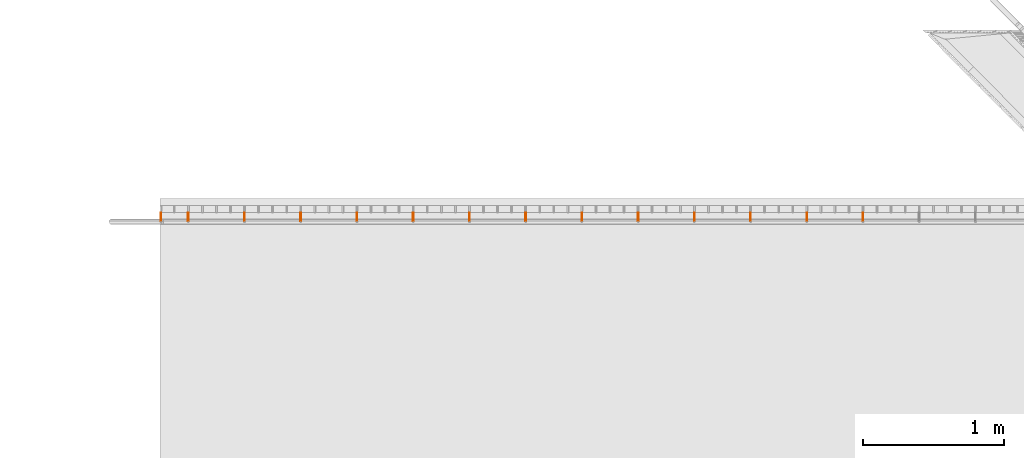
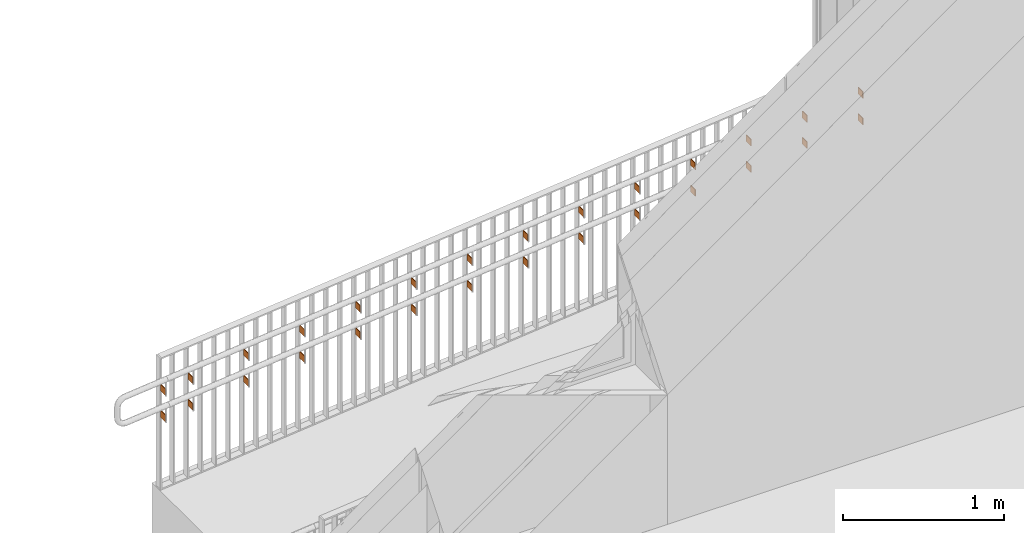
# One storey, part 379 of 418: 28 proxies.
"""IFC2X3 building model written with IfcOpenShell, lengths in millimetres."""

from ifc_helpers import new_model, entity, si_unit, converted_unit, derived_unit, money_unit, direction, frame, origin_with_axes, place, context, subcontext, project, spatial, polyline, outline, extrude, material, type_object, element, save


model = new_model("IFC2X3")

# Units and contexts
model_context = context("Model", 3, precision=0.01, world=origin_with_axes(), true_north=direction((0.0, 1.0)))
body_context = subcontext(model_context, "Body", "Model", "MODEL_VIEW")
ifc_project = project(units=[si_unit("LENGTHUNIT", "METRE", prefix="MILLI"), si_unit("AREAUNIT", "SQUARE_METRE"), si_unit("VOLUMEUNIT", "CUBIC_METRE"), converted_unit("PLANEANGLEUNIT", "DEGREE", entity("IfcPlaneAngleMeasure", 0.0174532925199), si_unit("PLANEANGLEUNIT", "RADIAN"), dimensions=[0, 0, 0, 0, 0, 0, 0]), si_unit("SOLIDANGLEUNIT", "STERADIAN"), money_unit("EUR"), converted_unit("TIMEUNIT", "Year", entity("IfcTimeMeasure", 31556926.0), si_unit("TIMEUNIT", "SECOND"), dimensions=[0, 0, 1, 0, 0, 0, 0]), si_unit("MASSUNIT", "GRAM", prefix="KILO"), si_unit("THERMODYNAMICTEMPERATUREUNIT", "DEGREE_CELSIUS"), si_unit("LUMINOUSINTENSITYUNIT", "LUMEN"), si_unit("ENERGYUNIT", "JOULE", prefix="MEGA"), derived_unit("THERMALCONDUCTANCEUNIT", [(si_unit("POWERUNIT", "WATT"), 1), (si_unit("LENGTHUNIT", "METRE"), -1), (si_unit("THERMODYNAMICTEMPERATUREUNIT", "KELVIN"), -1)]), derived_unit("SPECIFICHEATCAPACITYUNIT", [(si_unit("ENERGYUNIT", "JOULE"), 1), (si_unit("MASSUNIT", "GRAM", prefix="KILO"), -1), (si_unit("THERMODYNAMICTEMPERATUREUNIT", "KELVIN"), -1)]), derived_unit("MASSDENSITYUNIT", [(si_unit("MASSUNIT", "GRAM", prefix="KILO"), 1), (si_unit("VOLUMEUNIT", "CUBIC_METRE"), -1)])], contexts=[model_context])

# Site, building, storey
site_placement = place(None, origin_with_axes())
site = spatial("IfcSite", under=ifc_project, at=site_placement, Name="Paldiski mnt 245/1, Tallinn, Harjumaa", CompositionType="COMPLEX")
building_placement = place(site_placement, origin_with_axes())
building = spatial("IfcBuilding", under=site, at=building_placement, Name="RKAS Hoone üldnimetus (kasutust iseloomustav) -> IFC Project Manager -> SOLIBRI", CompositionType="ELEMENT")
storey_placement = place(building_placement, origin_with_axes())
storey = spatial("IfcBuildingStorey", under=building, at=storey_placement, Name="Esimene korrus", CompositionType="ELEMENT", Elevation=0.0)

# Proxies
ifc_material = material(Name="RAL 7011 Tumehall")
building_element_proxy_type = type_object("IfcBuildingElementProxyType", Name="RAL 7011 Tumehall 50", PredefinedType="NOTDEFINED")
proxy_1_placement = place(storey_placement, frame((-59720.7116431, 38489.7311931, -46.0667069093), z_axis=(0.0, 0.0, 1.0), x_axis=(1.0, 0.0, 0.0)))
element("IfcBuildingElementProxy", 1, at=proxy_1_placement, inside=storey, type_object=building_element_proxy_type, material=ifc_material, Name="Piire", context=body_context, shape_type="SweptSolid", body=[
    extrude(outline(polyline([(0.0, 0.0), (-5.00000000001, 0.0), (-5.00000000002, -60.0), (0.0, -60.0), (0.0, 0.0)])), frame((0.0, 0.0, -50.0), z_axis=(0.0, 0.0, 1.0), x_axis=(1.0, 0.0, 0.0)), (0.0, 0.0, 1.0), 50.0),
])
for number, where, z_axis, x_axis in (
    (2, (-57720.6104354, 38489.7311931, 353.943483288), (0.0, 0.0, 1.0), (1.0, 0.0, 0.0)),
    (3, (-56520.6611385, 38489.7311931, 473.938413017), (0.0, 0.0, 1.0), (1.0, 0.0, 0.0)),
):
    element("IfcBuildingElementProxy", number, at=place(storey_placement, frame(where, z_axis=z_axis, x_axis=x_axis)), inside=storey, type_object=building_element_proxy_type, material=ifc_material, Name="Piire", context=body_context, shape_type="SweptSolid", body=[
        extrude(outline(polyline([(0.0, 0.0), (-5.0, 0.0), (-5.0, -60.0), (0.0, -60.0), (0.0, 0.0)])), frame((0.0, 0.0, -50.0), z_axis=(0.0, 0.0, 1.0), x_axis=(1.0, 0.0, 0.0)), (0.0, 0.0, 1.0), 50.0),
    ])
proxy_2_placement = place(storey_placement, frame((-59320.66094, 38489.7311931, -6.06163658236), z_axis=(0.0, 0.0, 1.0), x_axis=(1.0, 0.0, 0.0)))
element("IfcBuildingElementProxy", 4, at=proxy_2_placement, inside=storey, type_object=building_element_proxy_type, material=ifc_material, Name="Piire", context=body_context, shape_type="SweptSolid", body=[
    extrude(outline(polyline([(0.0, 0.0), (-5.00000000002, 0.0), (-5.00000000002, -60.0), (0.0, -60.0), (0.0, 0.0)])), frame((0.0, 0.0, -50.0), z_axis=(0.0, 0.0, 1.0), x_axis=(1.0, 0.0, 0.0)), (0.0, 0.0, 1.0), 50.0),
])
proxy_3_placement = place(storey_placement, frame((-58920.6611385, 38489.7311931, 233.938412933), z_axis=(0.0, 0.0, 1.0), x_axis=(1.0, 0.0, 0.0)))
element("IfcBuildingElementProxy", 5, at=proxy_3_placement, inside=storey, type_object=building_element_proxy_type, material=ifc_material, Name="Piire", context=body_context, shape_type="SweptSolid", body=[
    extrude(outline(polyline([(0.0, 0.0), (-5.00000000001, 0.0), (-5.00000000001, -60.0), (0.0, -60.0), (0.0, 0.0)])), frame((0.0, 0.0, -50.0), z_axis=(0.0, 0.0, 1.0), x_axis=(1.0, 0.0, 0.0)), (0.0, 0.0, 1.0), 50.0),
])
proxy_4_placement = place(storey_placement, frame((-58920.66094, 38489.7311931, 33.9383634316), z_axis=(0.0, 0.0, 1.0), x_axis=(1.0, 0.0, 0.0)))
element("IfcBuildingElementProxy", 6, at=proxy_4_placement, inside=storey, type_object=building_element_proxy_type, material=ifc_material, Name="Piire", context=body_context, shape_type="SweptSolid", body=[
    extrude(outline(polyline([(0.0, 0.0), (-5.00000000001, 0.0), (-5.00000000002, -60.0), (0.0, -60.0), (0.0, 0.0)])), frame((0.0, 0.0, -50.0), z_axis=(0.0, 0.0, 1.0), x_axis=(1.0, 0.0, 0.0)), (0.0, 0.0, 1.0), 50.0),
])
for number, where, z_axis, x_axis in (
    (7, (-59320.6611385, 38489.7311931, 193.938412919), (0.0, 0.0, 1.0), (1.0, 0.0, 0.0)),
    (8, (-58120.6611385, 38489.7311931, 313.938412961), (0.0, 0.0, 1.0), (1.0, 0.0, 0.0)),
):
    element("IfcBuildingElementProxy", number, at=place(storey_placement, frame(where, z_axis=z_axis, x_axis=x_axis)), inside=storey, type_object=building_element_proxy_type, material=ifc_material, Name="Piire", context=body_context, shape_type="SweptSolid", body=[
        extrude(outline(polyline([(0.0, 0.0), (-5.0, 0.0), (-5.0, -60.0), (0.0, -60.0), (0.0, 0.0)])), frame((0.0, 0.0, -50.0), z_axis=(0.0, 0.0, 1.0), x_axis=(1.0, 0.0, 0.0)), (0.0, 0.0, 1.0), 50.0),
    ])
proxy_5_placement = place(storey_placement, frame((-57720.6102369, 38489.7311931, 153.943433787), z_axis=(0.0, 0.0, 1.0), x_axis=(1.0, 0.0, 0.0)))
element("IfcBuildingElementProxy", 9, at=proxy_5_placement, inside=storey, type_object=building_element_proxy_type, material=ifc_material, Name="Piire", context=body_context, shape_type="SweptSolid", body=[
    extrude(outline(polyline([(0.0, 0.0), (-5.0, 0.0), (-5.00000000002, -60.0), (0.0, -60.0), (0.0, 0.0)])), frame((0.0, 0.0, -50.0), z_axis=(0.0, 0.0, 1.0), x_axis=(1.0, 0.0, 0.0)), (0.0, 0.0, 1.0), 50.0),
])
proxy_6_placement = place(storey_placement, frame((-58120.66094, 38489.7311931, 113.93836346), z_axis=(0.0, 0.0, 1.0), x_axis=(1.0, 0.0, 0.0)))
element("IfcBuildingElementProxy", 10, at=proxy_6_placement, inside=storey, type_object=building_element_proxy_type, material=ifc_material, Name="Piire", context=body_context, shape_type="SweptSolid", body=[
    extrude(outline(polyline([(0.0, 0.0), (-5.00000000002, 0.0), (-5.00000000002, -60.0), (0.0, -60.0), (0.0, 0.0)])), frame((0.0, 0.0, -50.0), z_axis=(0.0, 0.0, 1.0), x_axis=(1.0, 0.0, 0.0)), (0.0, 0.0, 1.0), 50.0),
])
proxy_7_placement = place(storey_placement, frame((-56520.66094, 38489.7311931, 273.938363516), z_axis=(0.0, 0.0, 1.0), x_axis=(1.0, 0.0, 0.0)))
element("IfcBuildingElementProxy", 11, at=proxy_7_placement, inside=storey, type_object=building_element_proxy_type, material=ifc_material, Name="Piire", context=body_context, shape_type="SweptSolid", body=[
    extrude(outline(polyline([(0.0, 0.0), (-5.00000000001, 0.0), (-5.00000000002, -60.0), (0.0, -60.0), (0.0, 0.0)])), frame((0.0, 0.0, -50.0), z_axis=(0.0, 0.0, 1.0), x_axis=(1.0, 0.0, 0.0)), (0.0, 0.0, 1.0), 50.0),
])
proxy_8_placement = place(storey_placement, frame((-56920.5595337, 38489.7311931, 233.948504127), z_axis=(0.0, 0.0, 1.0), x_axis=(1.0, 0.0, 0.0)))
element("IfcBuildingElementProxy", 12, at=proxy_8_placement, inside=storey, type_object=building_element_proxy_type, material=ifc_material, Name="Piire", context=body_context, shape_type="SweptSolid", body=[
    extrude(outline(polyline([(0.0, 0.0), (-5.00000000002, 0.0), (-5.00000000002, -60.0), (0.0, -60.0), (0.0, 0.0)])), frame((0.0, 0.0, -50.0), z_axis=(0.0, 0.0, 1.0), x_axis=(1.0, 0.0, 0.0)), (0.0, 0.0, 1.0), 50.0),
])
proxy_9_placement = place(storey_placement, frame((-56920.5597323, 38489.7311931, 433.948553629), z_axis=(0.0, 0.0, 1.0), x_axis=(1.0, 0.0, 0.0)))
element("IfcBuildingElementProxy", 13, at=proxy_9_placement, inside=storey, type_object=building_element_proxy_type, material=ifc_material, Name="Piire", context=body_context, shape_type="SweptSolid", body=[
    extrude(outline(polyline([(0.0, 0.0), (-5.0, 0.0), (-5.00000000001, -60.0), (0.0, -60.0), (0.0, 0.0)])), frame((0.0, 0.0, -50.0), z_axis=(0.0, 0.0, 1.0), x_axis=(1.0, 0.0, 0.0)), (0.0, 0.0, 1.0), 50.0),
])
proxy_10_placement = place(storey_placement, frame((-58520.6104354, 38489.7311931, 273.94348326), z_axis=(0.0, 0.0, 1.0), x_axis=(1.0, 0.0, 0.0)))
element("IfcBuildingElementProxy", 14, at=proxy_10_placement, inside=storey, type_object=building_element_proxy_type, material=ifc_material, Name="Piire", context=body_context, shape_type="SweptSolid", body=[
    extrude(outline(polyline([(0.0, 0.0), (-4.99999999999, 0.0), (-5.00000000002, -60.0), (0.0, -60.0), (0.0, 0.0)])), frame((0.0, 0.0, -50.0), z_axis=(0.0, 0.0, 1.0), x_axis=(1.0, 0.0, 0.0)), (0.0, 0.0, 1.0), 50.0),
])
proxy_11_placement = place(storey_placement, frame((-57320.6104354, 38489.7311931, 393.943483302), z_axis=(0.0, 0.0, 1.0), x_axis=(1.0, 0.0, 0.0)))
element("IfcBuildingElementProxy", 15, at=proxy_11_placement, inside=storey, type_object=building_element_proxy_type, material=ifc_material, Name="Piire", context=body_context, shape_type="SweptSolid", body=[
    extrude(outline(polyline([(0.0, 0.0), (-5.0, 0.0), (-5.00000000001, -60.0), (0.0, -60.0), (0.0, 0.0)])), frame((0.0, 0.0, -50.0), z_axis=(0.0, 0.0, 1.0), x_axis=(1.0, 0.0, 0.0)), (0.0, 0.0, 1.0), 50.0),
])
proxy_12_placement = place(storey_placement, frame((-58520.6102369, 38489.7311931, 73.9434337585), z_axis=(0.0, 0.0, 1.0), x_axis=(1.0, 0.0, 0.0)))
element("IfcBuildingElementProxy", 16, at=proxy_12_placement, inside=storey, type_object=building_element_proxy_type, material=ifc_material, Name="Piire", context=body_context, shape_type="SweptSolid", body=[
    extrude(outline(polyline([(0.0, 0.0), (-5.00000000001, 0.0), (-5.00000000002, -60.0), (0.0, -60.0), (0.0, 0.0)])), frame((0.0, 0.0, -50.0), z_axis=(0.0, 0.0, 1.0), x_axis=(1.0, 0.0, 0.0)), (0.0, 0.0, 1.0), 50.0),
])
proxy_13_placement = place(storey_placement, frame((-57320.6102369, 38489.7311931, 193.9434338), z_axis=(0.0, 0.0, 1.0), x_axis=(1.0, 0.0, 0.0)))
element("IfcBuildingElementProxy", 17, at=proxy_13_placement, inside=storey, type_object=building_element_proxy_type, material=ifc_material, Name="Piire", context=body_context, shape_type="SweptSolid", body=[
    extrude(outline(polyline([(0.0, 0.0), (-5.00000000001, 0.0), (-5.00000000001, -60.0), (0.0, -60.0), (0.0, 0.0)])), frame((0.0, 0.0, -50.0), z_axis=(0.0, 0.0, 1.0), x_axis=(1.0, 0.0, 0.0)), (0.0, 0.0, 1.0), 50.0),
])
for number, where, z_axis, x_axis in (
    (18, (-59915.5597249, 38489.7311931, 134.448554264), (0.0, 0.0, 1.0), (1.0, 0.0, 0.0)),
    (19, (-59720.7118416, 38489.7311931, 153.933342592), (0.0, 0.0, 1.0), (1.0, 0.0, 0.0)),
):
    element("IfcBuildingElementProxy", number, at=place(storey_placement, frame(where, z_axis=z_axis, x_axis=x_axis)), inside=storey, type_object=building_element_proxy_type, material=ifc_material, Name="Piire", context=body_context, shape_type="SweptSolid", body=[
        extrude(outline(polyline([(0.0, 0.0), (-5.0, 0.0), (-5.00000000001, -60.0), (0.0, -60.0), (0.0, 0.0)])), frame((0.0, 0.0, -50.0), z_axis=(0.0, 0.0, 1.0), x_axis=(1.0, 0.0, 0.0)), (0.0, 0.0, 1.0), 50.0),
    ])
proxy_14_placement = place(storey_placement, frame((-59915.5595263, 38489.7311931, -65.5514952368), z_axis=(0.0, 0.0, 1.0), x_axis=(1.0, 0.0, 0.0)))
element("IfcBuildingElementProxy", 20, at=proxy_14_placement, inside=storey, type_object=building_element_proxy_type, material=ifc_material, Name="Piire", context=body_context, shape_type="SweptSolid", body=[
    extrude(outline(polyline([(0.0, 0.0), (-5.00000000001, 0.0), (-5.00000000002, -60.0), (0.0, -60.0), (0.0, 0.0)])), frame((0.0, 0.0, -50.0), z_axis=(0.0, 0.0, 1.0), x_axis=(1.0, 0.0, 0.0)), (0.0, 0.0, 1.0), 50.0),
])
proxy_15_placement = place(storey_placement, frame((-54920.6104354, 38489.7311931, 633.943483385), z_axis=(0.0, 0.0, 1.0), x_axis=(1.0, 0.0, 0.0)))
element("IfcBuildingElementProxy", 21, at=proxy_15_placement, inside=storey, type_object=building_element_proxy_type, material=ifc_material, Name="Piire", context=body_context, shape_type="SweptSolid", body=[
    extrude(outline(polyline([(0.0, 0.0), (-5.0, 0.0), (-5.00000000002, -60.0), (0.0, -60.0), (0.0, 0.0)])), frame((0.0, 0.0, -50.0), z_axis=(0.0, 0.0, 1.0), x_axis=(1.0, 0.0, 0.0)), (0.0, 0.0, 1.0), 50.0),
])
proxy_16_placement = place(storey_placement, frame((-54920.6102369, 38489.7311931, 433.943433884), z_axis=(0.0, 0.0, 1.0), x_axis=(1.0, 0.0, 0.0)))
element("IfcBuildingElementProxy", 22, at=proxy_16_placement, inside=storey, type_object=building_element_proxy_type, material=ifc_material, Name="Piire", context=body_context, shape_type="SweptSolid", body=[
    extrude(outline(polyline([(0.0, 0.0), (-5.00000000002, 0.0), (-5.00000000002, -60.0), (0.0, -60.0), (0.0, 0.0)])), frame((0.0, 0.0, -50.0), z_axis=(0.0, 0.0, 1.0), x_axis=(1.0, 0.0, 0.0)), (0.0, 0.0, 1.0), 50.0),
])
proxy_17_placement = place(storey_placement, frame((-55320.5597323, 38489.7311931, 593.948553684), z_axis=(0.0, 0.0, 1.0), x_axis=(1.0, 0.0, 0.0)))
element("IfcBuildingElementProxy", 23, at=proxy_17_placement, inside=storey, type_object=building_element_proxy_type, material=ifc_material, Name="Piire", context=body_context, shape_type="SweptSolid", body=[
    extrude(outline(polyline([(0.0, 0.0), (-4.99999999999, 0.0), (-5.0, -60.0), (0.0, -60.0), (0.0, 0.0)])), frame((0.0, 0.0, -50.0), z_axis=(0.0, 0.0, 1.0), x_axis=(1.0, 0.0, 0.0)), (0.0, 0.0, 1.0), 50.0),
])
proxy_18_placement = place(storey_placement, frame((-55320.5595337, 38489.7311931, 393.948504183), z_axis=(0.0, 0.0, 1.0), x_axis=(1.0, 0.0, 0.0)))
element("IfcBuildingElementProxy", 24, at=proxy_18_placement, inside=storey, type_object=building_element_proxy_type, material=ifc_material, Name="Piire", context=body_context, shape_type="SweptSolid", body=[
    extrude(outline(polyline([(0.0, 0.0), (-5.00000000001, 0.0), (-5.0, -60.0), (0.0, -60.0), (0.0, 0.0)])), frame((0.0, 0.0, -50.0), z_axis=(0.0, 0.0, 1.0), x_axis=(1.0, 0.0, 0.0)), (0.0, 0.0, 1.0), 50.0),
])
proxy_19_placement = place(storey_placement, frame((-55720.6104354, 38489.7311931, 553.943483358), z_axis=(0.0, 0.0, 1.0), x_axis=(1.0, 0.0, 0.0)))
element("IfcBuildingElementProxy", 25, at=proxy_19_placement, inside=storey, type_object=building_element_proxy_type, material=ifc_material, Name="Piire", context=body_context, shape_type="SweptSolid", body=[
    extrude(outline(polyline([(0.0, 0.0), (-5.0, 0.0), (-5.0, -60.0), (0.0, -60.0), (0.0, 0.0)])), frame((0.0, 0.0, -50.0), z_axis=(0.0, 0.0, 1.0), x_axis=(1.0, 0.0, 0.0)), (0.0, 0.0, 1.0), 50.0),
])
proxy_20_placement = place(storey_placement, frame((-55720.6102369, 38489.7311931, 353.943433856), z_axis=(0.0, 0.0, 1.0), x_axis=(1.0, 0.0, 0.0)))
element("IfcBuildingElementProxy", 26, at=proxy_20_placement, inside=storey, type_object=building_element_proxy_type, material=ifc_material, Name="Piire", context=body_context, shape_type="SweptSolid", body=[
    extrude(outline(polyline([(0.0, 0.0), (-5.00000000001, 0.0), (-5.0, -60.0), (0.0, -60.0), (0.0, 0.0)])), frame((0.0, 0.0, -50.0), z_axis=(0.0, 0.0, 1.0), x_axis=(1.0, 0.0, 0.0)), (0.0, 0.0, 1.0), 50.0),
])
proxy_21_placement = place(storey_placement, frame((-56120.6104354, 38489.7311931, 513.943483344), z_axis=(0.0, 0.0, 1.0), x_axis=(1.0, 0.0, 0.0)))
element("IfcBuildingElementProxy", 27, at=proxy_21_placement, inside=storey, type_object=building_element_proxy_type, material=ifc_material, Name="Piire", context=body_context, shape_type="SweptSolid", body=[
    extrude(outline(polyline([(0.0, 0.0), (-5.0, 0.0), (-5.0, -60.0), (0.0, -60.0), (0.0, 0.0)])), frame((0.0, 0.0, -50.0), z_axis=(0.0, 0.0, 1.0), x_axis=(1.0, 0.0, 0.0)), (0.0, 0.0, 1.0), 50.0),
])
proxy_22_placement = place(storey_placement, frame((-56120.6102369, 38489.7311931, 313.943433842), z_axis=(0.0, 0.0, 1.0), x_axis=(1.0, 0.0, 0.0)))
element("IfcBuildingElementProxy", 28, at=proxy_22_placement, inside=storey, type_object=building_element_proxy_type, material=ifc_material, Name="Piire", context=body_context, shape_type="SweptSolid", body=[
    extrude(outline(polyline([(0.0, 0.0), (-5.00000000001, 0.0), (-5.00000000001, -60.0), (0.0, -60.0), (0.0, 0.0)])), frame((0.0, 0.0, -50.0), z_axis=(0.0, 0.0, 1.0), x_axis=(1.0, 0.0, 0.0)), (0.0, 0.0, 1.0), 50.0),
])

save(model, "model.ifc")
